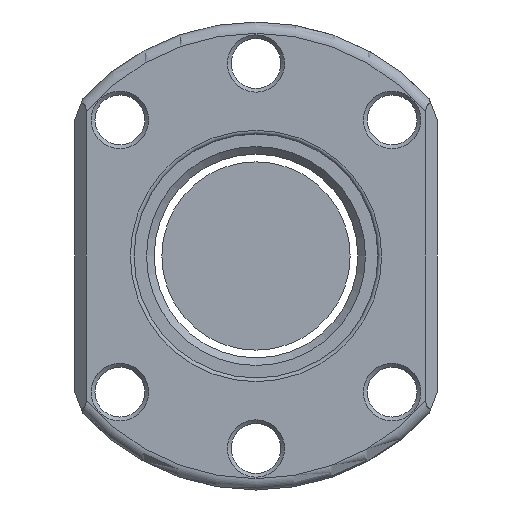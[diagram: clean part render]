
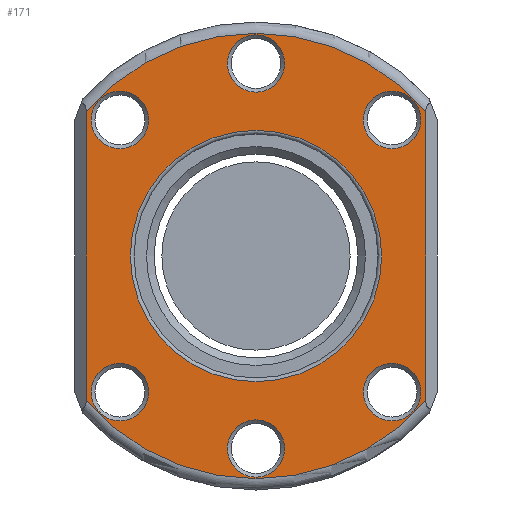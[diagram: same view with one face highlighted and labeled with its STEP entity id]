
A CAD part, front view. The second image highlights one B-rep face of the part: STEP entity #171.
In plain terms, the highlighted planar face has unit normal (0, -1, 0).
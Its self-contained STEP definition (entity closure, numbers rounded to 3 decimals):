
#64=LINE('',#1300,#88);
#65=LINE('',#1301,#89);
#88=VECTOR('',#946,1.);
#89=VECTOR('',#947,1.);
#132=PLANE('',#813);
#171=ADVANCED_FACE('',(#238,#239,#240,#241,#242,#243,#244,#245),#132,.T.);
#238=FACE_BOUND('',#321,.T.);
#239=FACE_BOUND('',#322,.T.);
#240=FACE_BOUND('',#323,.T.);
#241=FACE_BOUND('',#324,.T.);
#242=FACE_BOUND('',#325,.T.);
#243=FACE_BOUND('',#326,.T.);
#244=FACE_BOUND('',#327,.T.);
#245=FACE_BOUND('',#328,.T.);
#321=EDGE_LOOP('',(#433));
#322=EDGE_LOOP('',(#434));
#323=EDGE_LOOP('',(#435));
#324=EDGE_LOOP('',(#436));
#325=EDGE_LOOP('',(#437));
#326=EDGE_LOOP('',(#438));
#327=EDGE_LOOP('',(#439,#440,#441,#442));
#328=EDGE_LOOP('',(#443));
#433=ORIENTED_EDGE('',*,*,#675,.T.);
#434=ORIENTED_EDGE('',*,*,#676,.T.);
#435=ORIENTED_EDGE('',*,*,#677,.T.);
#436=ORIENTED_EDGE('',*,*,#678,.T.);
#437=ORIENTED_EDGE('',*,*,#679,.T.);
#438=ORIENTED_EDGE('',*,*,#680,.T.);
#439=ORIENTED_EDGE('',*,*,#681,.T.);
#440=ORIENTED_EDGE('',*,*,#682,.T.);
#441=ORIENTED_EDGE('',*,*,#664,.T.);
#442=ORIENTED_EDGE('',*,*,#683,.T.);
#443=ORIENTED_EDGE('',*,*,#684,.T.);
#588=VERTEX_POINT('',#1211);
#593=VERTEX_POINT('',#1262);
#603=VERTEX_POINT('',#1286);
#604=VERTEX_POINT('',#1288);
#605=VERTEX_POINT('',#1290);
#606=VERTEX_POINT('',#1292);
#607=VERTEX_POINT('',#1294);
#608=VERTEX_POINT('',#1296);
#609=VERTEX_POINT('',#1298);
#610=VERTEX_POINT('',#1299);
#611=VERTEX_POINT('',#1303);
#664=EDGE_CURVE('',#588,#593,#741,.T.);
#675=EDGE_CURVE('',#603,#603,#750,.T.);
#676=EDGE_CURVE('',#604,#604,#751,.T.);
#677=EDGE_CURVE('',#605,#605,#752,.T.);
#678=EDGE_CURVE('',#606,#606,#753,.T.);
#679=EDGE_CURVE('',#607,#607,#754,.T.);
#680=EDGE_CURVE('',#608,#608,#755,.T.);
#681=EDGE_CURVE('',#609,#610,#756,.T.);
#682=EDGE_CURVE('',#610,#588,#64,.T.);
#683=EDGE_CURVE('',#593,#609,#65,.T.);
#684=EDGE_CURVE('',#611,#611,#757,.T.);
#741=CIRCLE('',#794,29.5);
#750=CIRCLE('',#805,3.8);
#751=CIRCLE('',#806,3.8);
#752=CIRCLE('',#807,3.8);
#753=CIRCLE('',#808,3.8);
#754=CIRCLE('',#809,3.8);
#755=CIRCLE('',#810,3.8);
#756=CIRCLE('',#811,29.5);
#757=CIRCLE('',#812,16.65);
#794=AXIS2_PLACEMENT_3D('',#1263,#908,#909);
#805=AXIS2_PLACEMENT_3D('',#1285,#932,#933);
#806=AXIS2_PLACEMENT_3D('',#1287,#934,#935);
#807=AXIS2_PLACEMENT_3D('',#1289,#936,#937);
#808=AXIS2_PLACEMENT_3D('',#1291,#938,#939);
#809=AXIS2_PLACEMENT_3D('',#1293,#940,#941);
#810=AXIS2_PLACEMENT_3D('',#1295,#942,#943);
#811=AXIS2_PLACEMENT_3D('',#1297,#944,#945);
#812=AXIS2_PLACEMENT_3D('',#1302,#948,#949);
#813=AXIS2_PLACEMENT_3D('',#1304,#950,#951);
#908=DIRECTION('',(0.,-1.,0.));
#909=DIRECTION('',(0.,0.,-1.));
#932=DIRECTION('',(0.,1.,0.));
#933=DIRECTION('',(0.,0.,-1.));
#934=DIRECTION('',(0.,1.,0.));
#935=DIRECTION('',(0.,0.,-1.));
#936=DIRECTION('',(0.,1.,0.));
#937=DIRECTION('',(0.,0.,-1.));
#938=DIRECTION('',(0.,1.,0.));
#939=DIRECTION('',(0.,0.,-1.));
#940=DIRECTION('',(0.,1.,0.));
#941=DIRECTION('',(0.,0.,-1.));
#942=DIRECTION('',(0.,1.,0.));
#943=DIRECTION('',(0.,0.,-1.));
#944=DIRECTION('',(0.,-1.,0.));
#945=DIRECTION('',(0.,0.,-1.));
#946=DIRECTION('',(0.,0.,-1.));
#947=DIRECTION('',(0.,0.,1.));
#948=DIRECTION('',(0.,1.,0.));
#949=DIRECTION('',(0.,0.,-1.));
#950=DIRECTION('',(0.,-1.,0.));
#951=DIRECTION('',(0.,0.,-1.));
#1211=CARTESIAN_POINT('',(-22.5,0.,-19.079));
#1262=CARTESIAN_POINT('',(22.5,0.,-19.079));
#1263=CARTESIAN_POINT('',(0.,0.,0.));
#1285=CARTESIAN_POINT('',(0.,0.,-25.5));
#1286=CARTESIAN_POINT('',(0.,0.,-29.3));
#1287=CARTESIAN_POINT('',(18.031,0.,-18.031));
#1288=CARTESIAN_POINT('',(18.031,0.,-21.831));
#1289=CARTESIAN_POINT('',(-18.031,0.,-18.031));
#1290=CARTESIAN_POINT('',(-18.031,0.,-21.831));
#1291=CARTESIAN_POINT('',(18.031,0.,18.031));
#1292=CARTESIAN_POINT('',(18.031,0.,14.231));
#1293=CARTESIAN_POINT('',(-18.031,0.,18.031));
#1294=CARTESIAN_POINT('',(-18.031,0.,14.231));
#1295=CARTESIAN_POINT('',(0.,0.,25.5));
#1296=CARTESIAN_POINT('',(0.,0.,21.7));
#1297=CARTESIAN_POINT('',(0.,0.,0.));
#1298=CARTESIAN_POINT('',(22.5,0.,19.079));
#1299=CARTESIAN_POINT('',(-22.5,0.,19.079));
#1300=CARTESIAN_POINT('',(-22.5,0.,-17.154));
#1301=CARTESIAN_POINT('',(22.5,0.,0.));
#1302=CARTESIAN_POINT('',(0.,0.,0.));
#1303=CARTESIAN_POINT('',(0.,0.,-16.65));
#1304=CARTESIAN_POINT('',(0.,0.,0.));
